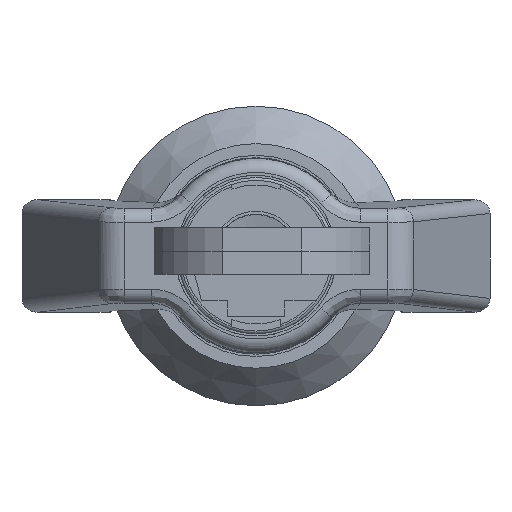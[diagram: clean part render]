
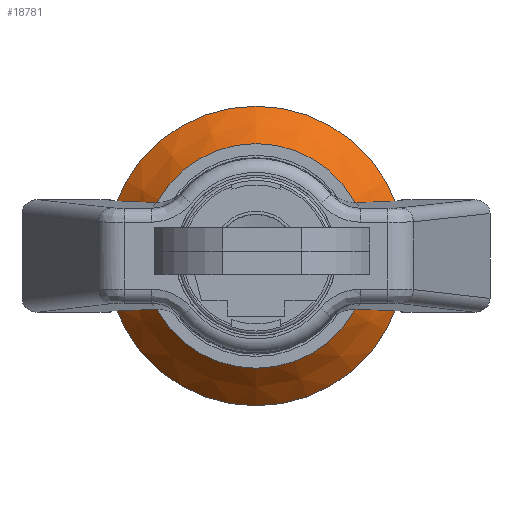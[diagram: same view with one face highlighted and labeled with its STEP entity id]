
A CAD part, top view. The second image highlights one B-rep face of the part: STEP entity #18781.
In plain terms, the highlighted conical face has half-angle 42.274 degrees and reference radius 14 mm.
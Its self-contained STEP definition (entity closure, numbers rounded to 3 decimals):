
#18739=CARTESIAN_POINT('',(0.0,12.,0.0));
#18740=VERTEX_POINT('',#18739);
#18741=CARTESIAN_POINT('',(0.0,0.0,0.0));
#18742=DIRECTION('',(-1.0,0.0,0.0));
#18743=DIRECTION('',(0.0,-1.0,0.0));
#18744=AXIS2_PLACEMENT_3D('',#18741,#18742,#18743);
#18745=CIRCLE('',#18744,12.);
#18746=EDGE_CURVE('',#18740,#18740,#18745,.T.);
#18762=CARTESIAN_POINT('',(2.2,0.0,0.0));
#18763=DIRECTION('',(1.0,0.0,0.0));
#18764=DIRECTION('',(0.0,-1.0,0.0));
#18765=AXIS2_PLACEMENT_3D('',#18762,#18763,#18764);
#18766=CONICAL_SURFACE('',#18765,14.,42.274);
#18767=ORIENTED_EDGE('',*,*,#18746,.F.);
#18768=EDGE_LOOP('',(#18767));
#18769=FACE_OUTER_BOUND('',#18768,.T.);
#18770=CARTESIAN_POINT('',(4.4,16.0,0.0));
#18771=VERTEX_POINT('',#18770);
#18772=CARTESIAN_POINT('',(4.4,0.0,0.0));
#18773=DIRECTION('',(-1.0,0.0,0.0));
#18774=DIRECTION('',(0.0,-1.0,0.0));
#18775=AXIS2_PLACEMENT_3D('',#18772,#18773,#18774);
#18776=CIRCLE('',#18775,16.0);
#18777=EDGE_CURVE('',#18771,#18771,#18776,.T.);
#18778=ORIENTED_EDGE('',*,*,#18777,.T.);
#18779=EDGE_LOOP('',(#18778));
#18780=FACE_BOUND('',#18779,.T.);
#18781=ADVANCED_FACE('',(#18769,#18780),#18766,.T.);
